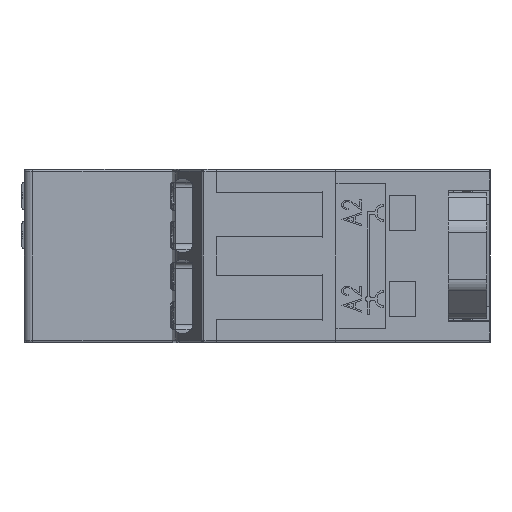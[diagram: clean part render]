
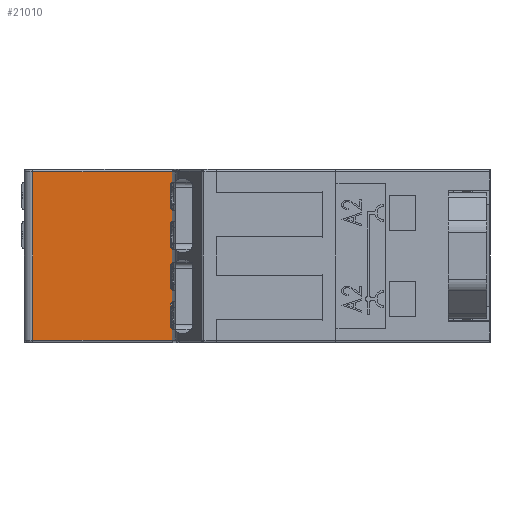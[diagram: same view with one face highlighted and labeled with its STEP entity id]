
A CAD part, left-side view. The second image highlights one B-rep face of the part: STEP entity #21010.
In plain terms, the highlighted planar face has unit normal (-1, 0, 0).
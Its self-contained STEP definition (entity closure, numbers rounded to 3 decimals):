
#181 = LINE ( 'NONE', #1670, #19560 ) ;
#241 = CARTESIAN_POINT ( 'NONE',  ( -1.095, 19.57, -45.205 ) ) ;
#600 = EDGE_LOOP ( 'NONE', ( #13767, #818, #1882, #8131, #17526, #9541, #14926, #10459, #10472, #23270 ) ) ;
#767 = EDGE_CURVE ( 'NONE', #14519, #16671, #935, .T. ) ;
#818 = ORIENTED_EDGE ( 'NONE', *, *, #10245, .T. ) ;
#869 = AXIS2_PLACEMENT_3D ( 'NONE', #7748, #18358, #2548 ) ;
#935 = LINE ( 'NONE', #20947, #28167 ) ;
#1100 = DIRECTION ( 'NONE',  ( 0., 0., -1. ) ) ;
#1670 = CARTESIAN_POINT ( 'NONE',  ( -1.095, 6.87, -59.255 ) ) ;
#1882 = ORIENTED_EDGE ( 'NONE', *, *, #12728, .F. ) ;
#2548 = DIRECTION ( 'NONE',  ( 0., 1., 0. ) ) ;
#3287 = VERTEX_POINT ( 'NONE', #241 ) ;
#5070 = CARTESIAN_POINT ( 'NONE',  ( -1.095, -0.28, -60.555 ) ) ;
#6049 = CIRCLE ( 'NONE', #25326, 0.25 ) ;
#6549 = EDGE_CURVE ( 'NONE', #8319, #33087, #34236, .T. ) ;
#7748 = CARTESIAN_POINT ( 'NONE',  ( -1.095, 6.87, -44.955 ) ) ;
#8131 = ORIENTED_EDGE ( 'NONE', *, *, #15909, .F. ) ;
#8319 = VERTEX_POINT ( 'NONE', #9803 ) ;
#9525 = CARTESIAN_POINT ( 'NONE',  ( -1.095, 6.87, -46.755 ) ) ;
#9541 = ORIENTED_EDGE ( 'NONE', *, *, #17513, .F. ) ;
#9803 = CARTESIAN_POINT ( 'NONE',  ( -1.095, 6.62, -59.255 ) ) ;
#9853 = CARTESIAN_POINT ( 'NONE',  ( -1.095, -0.03, -46.505 ) ) ;
#9978 = LINE ( 'NONE', #11158, #16219 ) ;
#9982 = DIRECTION ( 'NONE',  ( 0., 0., -1. ) ) ;
#10194 = CARTESIAN_POINT ( 'NONE',  ( -1.095, 19.57, -60.555 ) ) ;
#10245 = EDGE_CURVE ( 'NONE', #15486, #14224, #23704, .T. ) ;
#10459 = ORIENTED_EDGE ( 'NONE', *, *, #20262, .F. ) ;
#10472 = ORIENTED_EDGE ( 'NONE', *, *, #767, .T. ) ;
#10681 = CARTESIAN_POINT ( 'NONE',  ( -1.095, -0.03, -45.205 ) ) ;
#11158 = CARTESIAN_POINT ( 'NONE',  ( -1.095, 6.87, -45.205 ) ) ;
#11808 = DIRECTION ( 'NONE',  ( 0., 0., 1. ) ) ;
#11865 = EDGE_CURVE ( 'NONE', #15486, #3287, #25609, .T. ) ;
#12728 = EDGE_CURVE ( 'NONE', #29699, #14224, #22653, .T. ) ;
#13289 = VECTOR ( 'NONE', #9982, 1000. ) ;
#13580 = DIRECTION ( 'NONE',  ( 0., 0., -1. ) ) ;
#13767 = ORIENTED_EDGE ( 'NONE', *, *, #11865, .F. ) ;
#13906 = CARTESIAN_POINT ( 'NONE',  ( -1.095, 6.62, -46.755 ) ) ;
#14126 = LINE ( 'NONE', #23145, #13289 ) ;
#14224 = VERTEX_POINT ( 'NONE', #26167 ) ;
#14485 = VERTEX_POINT ( 'NONE', #9525 ) ;
#14519 = VERTEX_POINT ( 'NONE', #9853 ) ;
#14926 = ORIENTED_EDGE ( 'NONE', *, *, #26236, .T. ) ;
#15486 = VERTEX_POINT ( 'NONE', #10194 ) ;
#15909 = EDGE_CURVE ( 'NONE', #8319, #29699, #181, .T. ) ;
#16219 = VECTOR ( 'NONE', #29659, 1000. ) ;
#16605 = DIRECTION ( 'NONE',  ( 0., 0., -1. ) ) ;
#16671 = VERTEX_POINT ( 'NONE', #10681 ) ;
#16907 = DIRECTION ( 'NONE',  ( 1., 0., 0. ) ) ;
#17513 = EDGE_CURVE ( 'NONE', #14485, #33087, #14126, .T. ) ;
#17526 = ORIENTED_EDGE ( 'NONE', *, *, #6549, .T. ) ;
#18358 = DIRECTION ( 'NONE',  ( 1., 0., 0. ) ) ;
#18781 = EDGE_CURVE ( 'NONE', #16671, #3287, #9978, .T. ) ;
#19560 = VECTOR ( 'NONE', #25429, 1000. ) ;
#20262 = EDGE_CURVE ( 'NONE', #14519, #22572, #28484, .T. ) ;
#20947 = CARTESIAN_POINT ( 'NONE',  ( -1.095, -0.03, -46.505 ) ) ;
#21010 = ADVANCED_FACE ( 'NONE', ( #27190 ), #31488, .F. ) ;
#21472 = VECTOR ( 'NONE', #23003, 1000. ) ;
#22222 = AXIS2_PLACEMENT_3D ( 'NONE', #32668, #16907, #1100 ) ;
#22572 = VERTEX_POINT ( 'NONE', #26083 ) ;
#22653 = LINE ( 'NONE', #26759, #28853 ) ;
#22864 = VECTOR ( 'NONE', #26182, 1000. ) ;
#22888 = CARTESIAN_POINT ( 'NONE',  ( -1.095, 6.87, -46.505 ) ) ;
#23003 = DIRECTION ( 'NONE',  ( 0., 1., 0. ) ) ;
#23145 = CARTESIAN_POINT ( 'NONE',  ( -1.095, 6.87, -44.955 ) ) ;
#23270 = ORIENTED_EDGE ( 'NONE', *, *, #18781, .T. ) ;
#23704 = LINE ( 'NONE', #5070, #22864 ) ;
#24130 = CARTESIAN_POINT ( 'NONE',  ( -1.095, 6.87, -59.005 ) ) ;
#25326 = AXIS2_PLACEMENT_3D ( 'NONE', #13906, #32368, #16605 ) ;
#25429 = DIRECTION ( 'NONE',  ( 0., -1., 0. ) ) ;
#25609 = LINE ( 'NONE', #30305, #31773 ) ;
#26083 = CARTESIAN_POINT ( 'NONE',  ( -1.095, 6.62, -46.505 ) ) ;
#26167 = CARTESIAN_POINT ( 'NONE',  ( -1.095, -0.03, -60.555 ) ) ;
#26182 = DIRECTION ( 'NONE',  ( 0., -1., 0. ) ) ;
#26236 = EDGE_CURVE ( 'NONE', #14485, #22572, #6049, .T. ) ;
#26253 = DIRECTION ( 'NONE',  ( 0., 0., 1. ) ) ;
#26759 = CARTESIAN_POINT ( 'NONE',  ( -1.095, -0.03, -59.255 ) ) ;
#27190 = FACE_OUTER_BOUND ( 'NONE', #600, .T. ) ;
#27783 = CARTESIAN_POINT ( 'NONE',  ( -1.095, -0.03, -59.255 ) ) ;
#28167 = VECTOR ( 'NONE', #26253, 1000. ) ;
#28484 = LINE ( 'NONE', #22888, #21472 ) ;
#28853 = VECTOR ( 'NONE', #13580, 1000. ) ;
#29659 = DIRECTION ( 'NONE',  ( 0., 1., 0. ) ) ;
#29699 = VERTEX_POINT ( 'NONE', #27783 ) ;
#30305 = CARTESIAN_POINT ( 'NONE',  ( -1.095, 19.57, -124.272 ) ) ;
#31488 = PLANE ( 'NONE',  #869 ) ;
#31773 = VECTOR ( 'NONE', #11808, 1000. ) ;
#32368 = DIRECTION ( 'NONE',  ( 1., 0., 0. ) ) ;
#32668 = CARTESIAN_POINT ( 'NONE',  ( -1.095, 6.62, -59.005 ) ) ;
#33087 = VERTEX_POINT ( 'NONE', #24130 ) ;
#34236 = CIRCLE ( 'NONE', #22222, 0.25 ) ;
